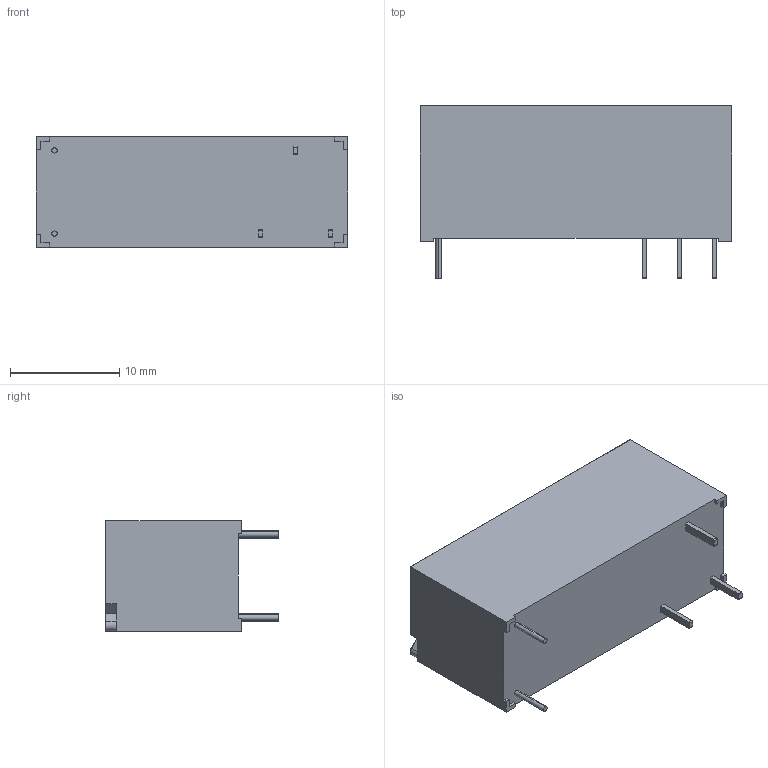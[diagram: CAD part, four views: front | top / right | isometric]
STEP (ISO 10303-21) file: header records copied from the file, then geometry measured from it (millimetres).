
FILE_DESCRIPTION (( 'STEP AP203' ), '1' );
FILE_NAME ('T74C型.STEP', '2022-08-17T09:00:07', ( '微软用户' ), ( '微软中国' ), 'SwSTEP 2.0', 'SolidWorks 2021', '' );
FILE_SCHEMA (( 'CONFIG_CONTROL_DESIGN' ));
Length unit declared in the file: millimetre
Products named in the file (1): T74C倰
Bounding box: 28.5 x 15.9 x 10.1 mm (x, y, z)
Volume: 3513.1 mm3; surface area: 1567.7 mm2
Topology: 1 solids, 1 shells, 86 faces, 215 edges, 139 vertices
Faces by surface type: plane 55, cylinder 29, torus 2
Entity records: 2612 total; most frequent: CARTESIAN_POINT 474, ORIENTED_EDGE 430, DIRECTION 418, EDGE_CURVE 215, VECTOR 164, LINE 164, VERTEX_POINT 139, AXIS2_PLACEMENT_3D 127
